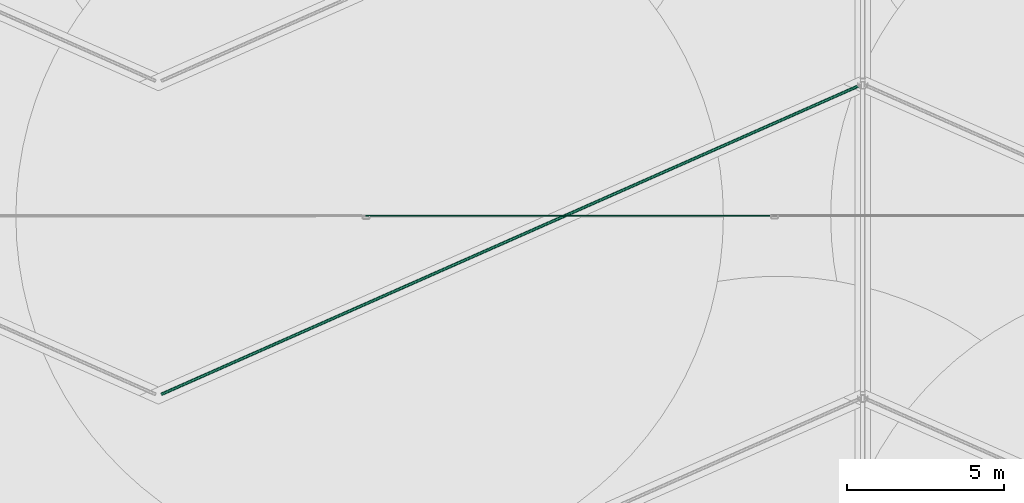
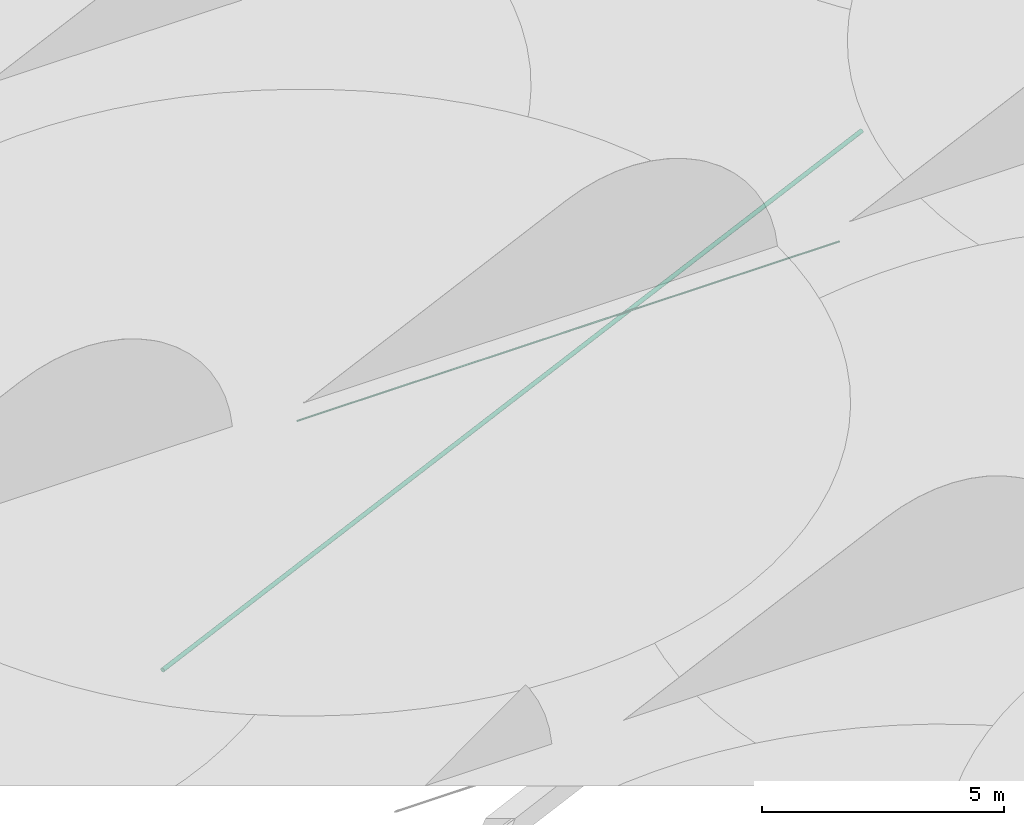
# One storey, part 29 of 166: 2 flow segments.
"""IFC2X3 building model written with IfcOpenShell, lengths in metres."""

from ifc_helpers import new_model, entity, si_unit, converted_unit, direction, frame, frame_2d, origin, place, context, subcontext, project, spatial, circle, extrude, type_object, element, save


model = new_model("IFC2X3")

# Units and contexts
model_context = context("Model", 3, precision=1e-05, world=origin(), true_north=direction((6.123233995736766e-17, 1.0)))
body_context = subcontext(model_context, "Body", "Model", "MODEL_VIEW")
ifc_project = project(units=[si_unit("LENGTHUNIT", "METRE"), converted_unit("PLANEANGLEUNIT", "DEGREE", entity("IfcPlaneAngleMeasure", 0.017453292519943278), si_unit("PLANEANGLEUNIT", "RADIAN"), dimensions=[0, 0, 0, 0, 0, 0, 0]), si_unit("AREAUNIT", "SQUARE_METRE")], contexts=[model_context])

# Site, building, storey
site_placement = place(None, origin())
site = spatial("IfcSite", under=ifc_project, at=site_placement, Name="Default", CompositionType="ELEMENT")
building_placement = place(site_placement, origin())
building = spatial("IfcBuilding", under=site, at=building_placement, Name="CASA DE ACOLHIDA PARA IDOSOS", CompositionType="ELEMENT")
storey_placement = place(building_placement, frame((0.0, 0.0, -1.7499999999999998)))
storey = spatial("IfcBuildingStorey", under=building, at=storey_placement, Name="IMPLANTAÇÃO DRENAGEM", CompositionType="ELEMENT", Elevation=-1.7499999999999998)

# Flow segments
pipe_segment_type_1 = type_object("IfcPipeSegmentType", Name="Tipos de tubos:PLUV_Tubo PEAD Corrugado", PredefinedType="NOTDEFINED")
flow_segment_1_placement = place(storey_placement, origin())
element("IfcFlowSegment", 1, at=flow_segment_1_placement, inside=storey, type_object=pipe_segment_type_1, Name="Tipos de tubos:PLUV_Tubo PEAD Corrugado", ObjectType="Tipos de tubos:PLUV_Tubo PEAD Corrugado", context=body_context, shape_type="SweptSolid", body=[
    extrude(circle(Radius=0.05, at=frame_2d((1.9806413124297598e-15, -8.760069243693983e-18), x_axis=(1.0, 0.0))), frame((22.96863342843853, 13.854942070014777, -0.9947999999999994), z_axis=(-0.9144899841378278, -0.40448495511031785, 0.009999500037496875), x_axis=(0.40450517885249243, -0.9145357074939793, 0.0)), (0.0, 0.0, 1.0), 24.480228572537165),
])
pipe_segment_type_2 = type_object("IfcPipeSegmentType", Name="Tipos de tubos:AF_Tubo Marrom Soldável", PredefinedType="NOTDEFINED")
flow_segment_2_placement = place(storey_placement, origin())
element("IfcFlowSegment", 2, at=flow_segment_2_placement, inside=storey, type_object=pipe_segment_type_2, Name="Tipos de tubos:AF_Tubo Marrom Soldável", ObjectType="Tipos de tubos:AF_Tubo Marrom Soldável", context=body_context, shape_type="SweptSolid", body=[
    extrude(circle(Radius=0.016, at=frame_2d((0.0, -2.707167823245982e-16), x_axis=(1.0, 0.0))), frame((7.082445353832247, 9.654942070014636, -0.19999999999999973), z_axis=(1.0, 0.0, 0.0), x_axis=(0.0, -1.0, 0.0)), (0.0, 0.0, 1.0), 12.933905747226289),
])

save(model, "model.ifc")
